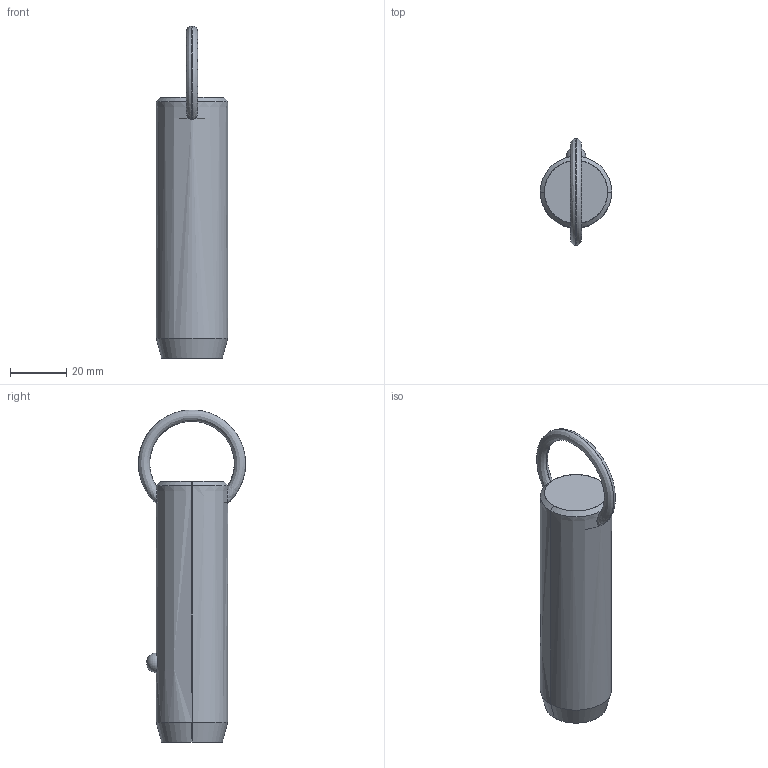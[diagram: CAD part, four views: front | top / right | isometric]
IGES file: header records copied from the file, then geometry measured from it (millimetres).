
Start section: SolidWorks IGES file using analytic representation for surfaces
Global section: file name: C:\Users\liam_\OneDrive\Documents\WORK\Work for WixRoyd\Job Files\J-00019 - Matt Davis CAD Checking\04. CAD Drawings\automotion20190605\P1250.2_v2\P1250.2_v2_20190729_IGES\P1250.100-190.igs; native system: SolidWorks 2017; preprocessor: SolidWorks 2017; author: liam_; date: 190730.173435; units: millimetre
Bounding box: 25.4 x 38.1 x 118.1 mm (x, y, z)
Surface area: 9170.5 mm2 (no closed solid volume)
Topology: 0 solids, 0 shells, 12 faces, 298 edges, 296 vertices
Faces by surface type: revolution 8, bspline 4
